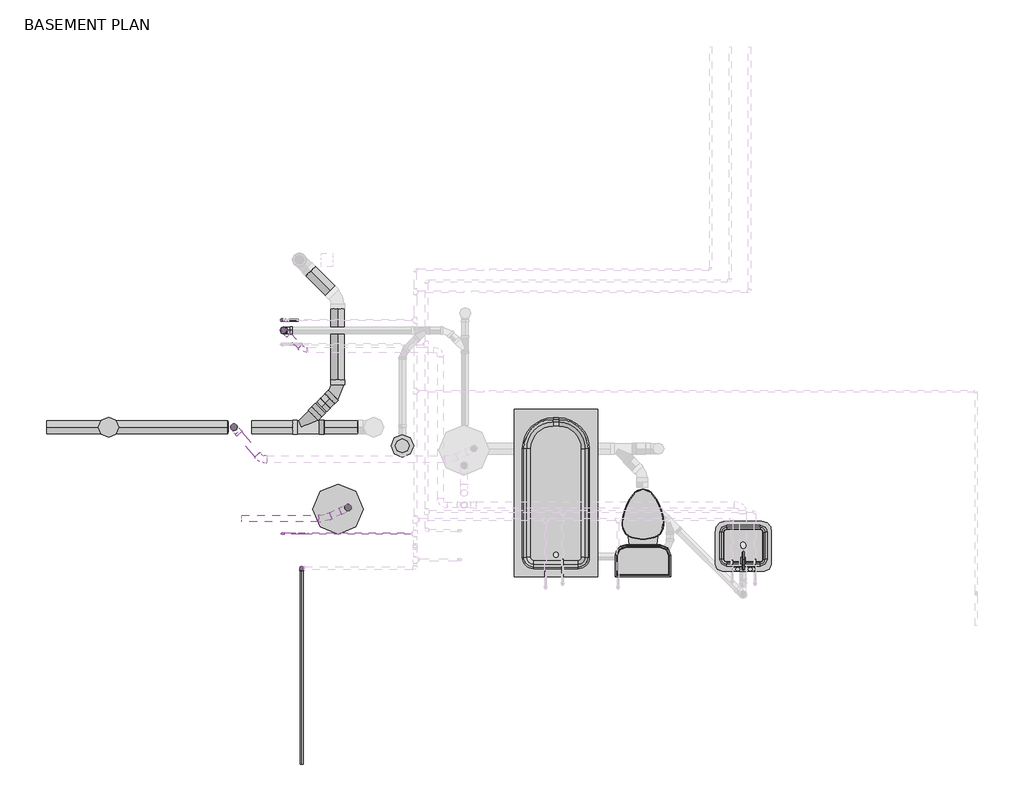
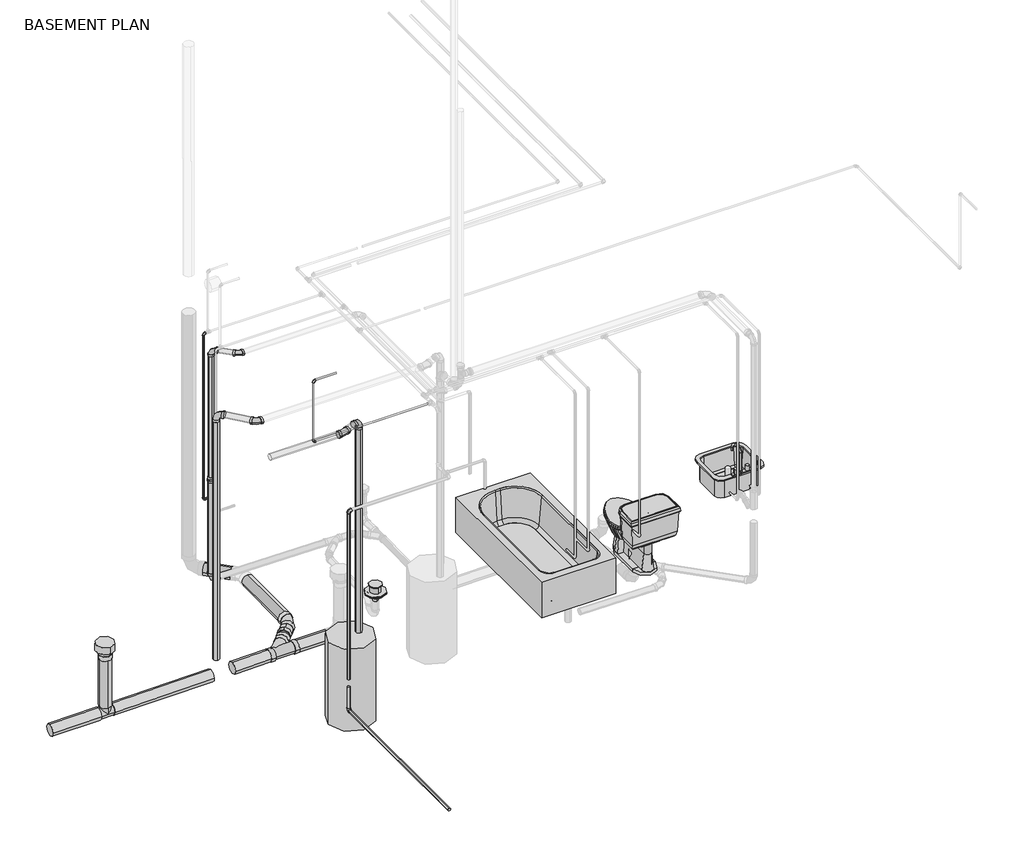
# One storey, part 1 of 6: 25 pipe segments, 20 pipe fittings, 4 flow terminals, 1 proxy.
"""IFC4 building model written with IfcOpenShell, lengths in millimetres."""

from ifc_helpers import new_model, si_unit, point, frame, frame_2d, origin, place, context, project, spatial, circle_curve, trimmed, segment, composite_curve, outline, extrude, transform, mapped, element, save
from components import elv280hv_71b66f3c, flow_terminal_cb594bdd, flow_terminal_62a433f7, toilet_domestic_3d1_toilet_domestic_3d_f7549cf7, toilet_domestic_3d1_toilet_domestic_3d_183bbd19, tub_rectangular_3d_tub_rectangular_5_8ae3ddee, bend_pvc_sch_40_dwv_standard_b61a2a1c, bend_pvc_sch_40_dwv_standard_6f2b9464, bend_pvc_sch_40_dwv_standard_738aab8b, bend_pvc_sch_40_dwv_standard_1b30ce54, bend_pvc_sch_40_dwv_standard_1eaeee76, bend_pvc_sch_40_dwv_standard_edfad06d, bend_pvc_sch_40_dwv_standard_361001dc, bend_pvc_sch_40_dwv_standard_f86c0bbe, ges_wye_45_deg_reducing_pvc_sch_40_dwv_standard_6ad944a7, pipe_elbow_copper_k_a25a5501, pipe_elbow_copper_k_aad62f2d, pipe_tee_copper_k_82b5b23f, reducer_pvc_sch_40_dwv_standard_b23fa098, reducer_pvc_sch_40_dwv_standard_9e2ad0bf, reducer_pvc_sch_40_dwv_standard_cf0626e5

model = new_model("IFC4")

# Units and contexts
model_context = context("Model", 3, world=origin())
ifc_project = project(units=[si_unit("LENGTHUNIT", "METRE", prefix="MILLI")], contexts=[model_context])

# Site, building, storey
site = spatial("IfcSite", under=ifc_project)
building = spatial("IfcBuilding", under=site)
storey = spatial("IfcBuildingStorey", under=building, Name="BASEMENT PLAN", Elevation=-2743.2)

# Proxy
placement = place(None, origin())
elv280hv_shape = elv280hv_71b66f3c(model_context)
element("IfcBuildingElementProxy", 1, Name="Pump-Sump-Liberty-ELV_Series : ELV280HV", ObjectType="Pump-Sump-Liberty-ELV_Series : ELV280HV", at=placement, inside=storey, context=model_context, shape_type="MappedRepresentation", body=[
    mapped(elv280hv_shape, transform((11910.1209899, 4938.7345292, -3632.2), x_axis=(1.0, 0.0, 0.0), y_axis=(0.0, 1.0, 0.0), z_axis=(0.0, 0.0, 1.0))),
])

# Flow terminals
flow_terminal_shape = flow_terminal_cb594bdd(model_context)
element("IfcFlowTerminal", 2, ObjectType="Floor Drain - Round : 5\" Strainer - 2\" Drain", at=placement, inside=storey, context=model_context, shape_type="MappedRepresentation", body=[
    mapped(flow_terminal_shape, transform((12494.056885, 5448.3128176, -2743.2), x_axis=(-7.342484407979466e-06, -0.999999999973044, 0.0), y_axis=(0.999999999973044, -7.342484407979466e-06, 0.0), z_axis=(0.0, 0.0, 1.0))),
])
flow_terminal_2_shape = flow_terminal_62a433f7(model_context)
element("IfcFlowTerminal", 3, ObjectType="Sink Vanity-Square : 20\" x 18\"", at=placement, inside=storey, context=model_context, shape_type="MappedRepresentation", body=[
    mapped(flow_terminal_2_shape, transform((15613.0155818, 4487.7944318, -2743.2), x_axis=(-1.0, 0.0, 0.0), y_axis=(0.0, -1.0, 0.0), z_axis=(0.0, 0.0, 1.0))),
])
toilet_domestic_3d1_toilet_domestic_3d_shape = toilet_domestic_3d1_toilet_domestic_3d_f7549cf7(model_context)
toilet_domestic_3d1_toilet_domestic_3d_2_shape = toilet_domestic_3d1_toilet_domestic_3d_183bbd19(model_context)
element("IfcFlowTerminal", 4, ObjectType="Toilet-Domestic-3D1 : Toilet-Domestic-3D", at=placement, inside=storey, context=model_context, shape_type="MappedRepresentation", body=[
    mapped(toilet_domestic_3d1_toilet_domestic_3d_shape, transform((14683.8939344, 4751.345058, -2743.2), x_axis=(-1.0, 0.0, 0.0), y_axis=(0.0, -1.0, 0.0), z_axis=(0.0, 0.0, 1.0))),
    mapped(toilet_domestic_3d1_toilet_domestic_3d_2_shape, transform((14683.8939344, 4751.345058, -2743.2), x_axis=(-1.0, 0.0, 0.0), y_axis=(0.0, -1.0, 0.0), z_axis=(0.0, 0.0, 1.0))),
])
tub_rectangular_3d_tub_rectangular_5_shape = tub_rectangular_3d_tub_rectangular_5_8ae3ddee(model_context)
element("IfcFlowTerminal", 5, ObjectType="Tub-Rectangular-3D : Tub-Rectangular- 5'", at=placement, inside=storey, context=model_context, shape_type="MappedRepresentation", body=[
    mapped(tub_rectangular_3d_tub_rectangular_5_shape, transform((13510.4504798, 5367.2519993, -2743.2), x_axis=(0.0, 1.0, 0.0), y_axis=(-1.0, 0.0, 0.0), z_axis=(0.0, 0.0, 1.0))),
])

# Pipe fittings
bend_pvc_sch_40_dwv_standard_shape = bend_pvc_sch_40_dwv_standard_b61a2a1c(model_context)
element("IfcPipeFitting", 6, ObjectType="Bend - PVC - Sch 40 - DWV : Standard", at=placement, inside=storey, context=model_context, shape_type="MappedRepresentation", body=[
    mapped(bend_pvc_sch_40_dwv_standard_shape, transform((11905.1846629, 5950.7802, -3263.0171956), x_axis=(0.7070684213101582, 0.7070684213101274, 0.010416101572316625), y_axis=(-0.707139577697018, 0.7070445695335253, 0.006449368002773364), z_axis=(-0.0028045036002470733, -0.011925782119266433, 0.9999249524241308))),
])
bend_pvc_sch_40_dwv_standard_2_shape = bend_pvc_sch_40_dwv_standard_6f2b9464(model_context)
element("IfcPipeFitting", 7, ObjectType="Bend - PVC - Sch 40 - DWV : Standard", at=placement, inside=storey, context=model_context, shape_type="MappedRepresentation", body=[
    mapped(bend_pvc_sch_40_dwv_standard_2_shape, transform((11414.906796, 6499.8094775, -2951.1776877), x_axis=(-0.9999457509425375, 0.0, 0.010416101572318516), y_axis=(0.010416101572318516, 0.0, 0.9999457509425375), z_axis=(0.0, 1.0, 0.0))),
])
bend_pvc_sch_40_dwv_standard_3_shape = bend_pvc_sch_40_dwv_standard_738aab8b(model_context)
element("IfcPipeFitting", 8, ObjectType="Bend - PVC - Sch 40 - DWV : Standard", at=placement, inside=storey, context=model_context, shape_type="MappedRepresentation", body=[
    mapped(bend_pvc_sch_40_dwv_standard_3_shape, transform((11414.9007772, 6499.8056248, -457.2), x_axis=(0.0, 0.0, 1.0), y_axis=(0.7071067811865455, -0.7071067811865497, 0.0), z_axis=(0.7071067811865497, 0.7071067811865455, 0.0))),
])
bend_pvc_sch_40_dwv_standard_4_shape = bend_pvc_sch_40_dwv_standard_1b30ce54(model_context)
element("IfcPipeFitting", 9, ObjectType="Bend - PVC - Sch 40 - DWV : Standard", at=placement, inside=storey, context=model_context, shape_type="MappedRepresentation", body=[
    mapped(bend_pvc_sch_40_dwv_standard_4_shape, transform((11594.5014125, 6320.2049895, -457.2), x_axis=(0.7071067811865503, -0.7071067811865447, 0.0), y_axis=(0.7071067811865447, 0.7071067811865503, 0.0), z_axis=(0.0, 0.0, 1.0))),
])
bend_pvc_sch_40_dwv_standard_5_shape = bend_pvc_sch_40_dwv_standard_1eaeee76(model_context)
element("IfcPipeFitting", 10, ObjectType="Bend - PVC - Sch 40 - DWV : Standard", at=placement, inside=storey, context=model_context, shape_type="MappedRepresentation", body=[
    mapped(bend_pvc_sch_40_dwv_standard_5_shape, transform((10960.527602, 5618.9056862, -457.2), x_axis=(0.0, 0.0, 1.0), y_axis=(0.6427876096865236, -0.7660444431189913, 0.0), z_axis=(0.7660444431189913, 0.6427876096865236, 0.0))),
])
bend_pvc_sch_40_dwv_standard_6_shape = bend_pvc_sch_40_dwv_standard_edfad06d(model_context)
element("IfcPipeFitting", 11, ObjectType="Bend - PVC - Sch 40 - DWV : Standard", at=placement, inside=storey, context=model_context, shape_type="MappedRepresentation", body=[
    mapped(bend_pvc_sch_40_dwv_standard_6_shape, transform((11789.1459642, 4788.8273624, -457.1859151), x_axis=(0.9999999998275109, 0.0, 1.8573592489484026e-05), y_axis=(7.398081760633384e-10, 0.9999999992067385, -3.983118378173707e-05), z_axis=(-1.8573592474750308e-05, 3.9831183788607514e-05, 0.9999999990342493))),
])
bend_pvc_sch_40_dwv_standard_7_shape = bend_pvc_sch_40_dwv_standard_361001dc(model_context)
element("IfcPipeFitting", 12, ObjectType="Bend - PVC - Sch 40 - DWV : Standard", at=placement, inside=storey, context=model_context, shape_type="MappedRepresentation", body=[
    mapped(bend_pvc_sch_40_dwv_standard_7_shape, transform((11205.3156217, 5327.1786843, -457.2), x_axis=(0.6427876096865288, -0.7660444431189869, 0.0), y_axis=(0.7660444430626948, 0.6427876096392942, 1.2123051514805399e-05), z_axis=(-9.286796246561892e-06, -7.792547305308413e-06, 0.9999999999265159))),
])
bend_pvc_sch_40_dwv_standard_8_shape = bend_pvc_sch_40_dwv_standard_f86c0bbe(model_context)
element("IfcPipeFitting", 13, ObjectType="Bend - PVC - Sch 40 - DWV : Standard", at=placement, inside=storey, context=model_context, shape_type="MappedRepresentation", body=[
    mapped(bend_pvc_sch_40_dwv_standard_8_shape, transform((11999.0028793, 4886.685283, -457.1840886), x_axis=(0.9063077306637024, 0.42261838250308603, 1.0473069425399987e-05), y_axis=(9.600624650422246e-06, 4.192787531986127e-06, -0.9999999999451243), z_axis=(-0.4226183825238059, 0.9063077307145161, -2.5744470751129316e-07))),
])
ges_wye_45_deg_reducing_pvc_sch_40_dwv_standard_shape = ges_wye_45_deg_reducing_pvc_sch_40_dwv_standard_6ad944a7(model_context)
element("IfcPipeFitting", 14, ObjectType="GES Wye 45 Deg Reducing - PVC - Sch 40 - DWV : Standard", at=placement, inside=storey, context=model_context, shape_type="MappedRepresentation", body=[
    mapped(ges_wye_45_deg_reducing_pvc_sch_40_dwv_standard_shape, transform((11573.3101491, 5618.9056862, -3273.3124226), x_axis=(0.9999457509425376, 0.0, 0.010416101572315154), y_axis=(4.4939753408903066e-05, -0.9999906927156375, -0.004314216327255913), z_axis=(0.010416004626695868, 0.004314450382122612, -0.9999364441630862))),
])
pipe_elbow_copper_k_shape = pipe_elbow_copper_k_a25a5501(model_context)
element("IfcPipeFitting", 15, ObjectType="Pipe Elbow : Copper- K", at=placement, inside=storey, context=model_context, shape_type="MappedRepresentation", body=[
    mapped(pipe_elbow_copper_k_shape, transform((11578.2429462, 4334.9724615, -3112.4765802), x_axis=(0.0, 1.0, 0.0), y_axis=(0.0, 0.0, 1.0), z_axis=(1.0, 0.0, 0.0))),
])
element("IfcPipeFitting", 16, ObjectType="Pipe Elbow : Copper- K", at=placement, inside=storey, context=model_context, shape_type="MappedRepresentation", body=[
    mapped(pipe_elbow_copper_k_shape, transform((11578.2429462, 4334.9724615, -951.8313413), x_axis=(0.0, 0.0, 1.0), y_axis=(1.0, 0.0, 0.0), z_axis=(0.0, 1.0, 0.0))),
])
pipe_elbow_copper_k_2_shape = pipe_elbow_copper_k_aad62f2d(model_context)
element("IfcPipeFitting", 17, ObjectType="Pipe Elbow : Copper- K", at=placement, inside=storey, context=model_context, shape_type="MappedRepresentation", body=[
    mapped(pipe_elbow_copper_k_2_shape, transform((11392.7254798, 6593.4490306, -334.4523585), x_axis=(-1.0, 0.0, 0.0), y_axis=(0.0, 0.0, -1.0), z_axis=(0.0, -1.0, 0.0))),
])
element("IfcPipeFitting", 18, ObjectType="Pipe Elbow : Copper- K", at=placement, inside=storey, context=model_context, shape_type="MappedRepresentation", body=[
    mapped(pipe_elbow_copper_k_2_shape, transform((11392.7254798, 6593.4490306, -2133.6), x_axis=(0.0, 0.0, -1.0), y_axis=(1.0, 0.0, 0.0), z_axis=(0.0, -1.0, 0.0))),
])
element("IfcPipeFitting", 19, ObjectType="Pipe Elbow : Copper- K", at=placement, inside=storey, context=model_context, shape_type="MappedRepresentation", body=[
    mapped(pipe_elbow_copper_k_2_shape, transform((11399.1386676, 4650.3490306, 330.2), x_axis=(-1.0, 0.0, 0.0), y_axis=(0.0, 0.0, -1.0), z_axis=(0.0, -1.0, 0.0))),
])
element("IfcPipeFitting", 20, ObjectType="Pipe Elbow : Copper- K", at=placement, inside=storey, context=model_context, shape_type="MappedRepresentation", body=[
    mapped(pipe_elbow_copper_k_2_shape, transform((11399.1386676, 4650.3490306, -334.4523585), x_axis=(-1.0, 0.0, 0.0), y_axis=(0.0, 0.0, 1.0), z_axis=(0.0, 1.0, 0.0))),
])
pipe_tee_copper_k_shape = pipe_tee_copper_k_82b5b23f(model_context)
element("IfcPipeFitting", 21, ObjectType="Pipe Tee : Copper- K", at=placement, inside=storey, context=model_context, shape_type="MappedRepresentation", body=[
    mapped(pipe_tee_copper_k_shape, transform((9819.1572964, 5618.9056862, -3291.5848482), x_axis=(0.9999457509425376, 0.0, 0.010416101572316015), y_axis=(0.010416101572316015, 0.0, -0.9999457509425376), z_axis=(0.0, 1.0, 0.0))),
])
reducer_pvc_sch_40_dwv_standard_shape = reducer_pvc_sch_40_dwv_standard_b23fa098(model_context)
element("IfcPipeFitting", 22, ObjectType="Reducer - PVC - Sch 40 - DWV : Standard", at=placement, inside=storey, context=model_context, shape_type="MappedRepresentation", body=[
    mapped(reducer_pvc_sch_40_dwv_standard_shape, transform((11414.9052644, 6499.8101119, -1884.5247303), x_axis=(0.0, 0.0, 1.0), y_axis=(-1.0, 0.0, 0.0), z_axis=(0.0, -1.0, 0.0))),
])
element("IfcPipeFitting", 23, ObjectType="Reducer - PVC - Sch 40 - DWV : Standard", at=placement, inside=storey, context=model_context, shape_type="MappedRepresentation", body=[
    mapped(reducer_pvc_sch_40_dwv_standard_shape, transform((11999.0033514, 4886.6847996, -2944.2212886), x_axis=(1.9372387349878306e-07, -1.9847236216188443e-07, -0.9999999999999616), y_axis=(0.9999999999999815, 0.0, 1.937238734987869e-07), z_axis=(0.0, -0.9999999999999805, 1.9847236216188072e-07))),
])
reducer_pvc_sch_40_dwv_standard_2_shape = reducer_pvc_sch_40_dwv_standard_9e2ad0bf(model_context)
element("IfcPipeFitting", 24, ObjectType="Reducer - PVC - Sch 40 - DWV : Standard", at=placement, inside=storey, context=model_context, shape_type="MappedRepresentation", body=[
    mapped(reducer_pvc_sch_40_dwv_standard_2_shape, transform((9819.1572964, 5618.9056862, -2707.3848482), x_axis=(0.0, 0.0, 1.0), y_axis=(-1.0, 0.0, 0.0), z_axis=(0.0, -1.0, 0.0))),
])
reducer_pvc_sch_40_dwv_standard_3_shape = reducer_pvc_sch_40_dwv_standard_cf0626e5(model_context)
element("IfcPipeFitting", 25, ObjectType="Reducer - PVC - Sch 40 - DWV : Standard", at=placement, inside=storey, context=model_context, shape_type="MappedRepresentation", body=[
    mapped(reducer_pvc_sch_40_dwv_standard_3_shape, transform((11714.4468615, 5760.0423985, -3271.2332825), x_axis=(0.7070684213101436, 0.7070684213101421, 0.010416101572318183), y_axis=(-0.7070684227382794, 0.7071319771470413, -0.004314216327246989), z_axis=(-0.010416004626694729, -0.004314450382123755, 0.9999364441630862))),
])

# Pipe segments
element("IfcPipeSegment", 26, ObjectType="Cast Iron - SAN/STORM", at=placement, inside=storey, context=model_context, shape_type="SweptSolid", body=[
    extrude(outline(composite_curve([segment(trimmed(circle_curve(frame_2d((0.0, -61.11875)), 61.11875), [point((0.0, 0.0))], [point((61.11875, -61.11875))], False, "CARTESIAN"), True, "CONTINUOUS"), segment(trimmed(circle_curve(frame_2d((0.0, -61.11875)), 61.11875), [point((61.11875, -61.11875))], [point((0.0, -122.2375))], False, "CARTESIAN"), True, "CONTINUOUS"), segment(trimmed(circle_curve(frame_2d((0.0, -61.11875)), 61.11875), [point((0.0, -122.2375))], [point((-61.11875, -61.11875))], False, "CARTESIAN"), True, "CONTINUOUS"), segment(trimmed(circle_curve(frame_2d((0.0, -61.11875)), 61.11875), [point((-61.11875, -61.11875))], [point((0.0, 0.0))], False, "CARTESIAN"), True, "CONTINUOUS")], self_intersect=False)), frame((9255.5675578, 5680.0244362, -3297.4555746), z_axis=(0.9999457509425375, 0.0, 0.010416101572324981), x_axis=(0.010416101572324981, 0.0, -0.9999457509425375)), (0.0, 0.0, 1.0), 495.3578145),
])
element("IfcPipeSegment", 27, ObjectType="Cast Iron - SAN/STORM", at=placement, inside=storey, context=model_context, shape_type="SweptSolid", body=[
    extrude(outline(composite_curve([segment(trimmed(circle_curve(frame_2d((0.0, 61.11875)), 61.11875), [point((61.1154348, 60.4821655))], [point((-0.6365845, 0.0033153))], False, "CARTESIAN"), True, "CONTINUOUS"), segment(trimmed(circle_curve(frame_2d((0.0, 61.11875)), 61.11875), [point((-0.6365845, 0.0033153))], [point((-61.1154347, 61.7553346))], False, "CARTESIAN"), True, "CONTINUOUS"), segment(trimmed(circle_curve(frame_2d((0.0, 61.11875)), 61.11875), [point((-61.1154347, 61.7553346))], [point((0.6365846, 122.2341847))], False, "CARTESIAN"), True, "CONTINUOUS"), segment(trimmed(circle_curve(frame_2d((0.0, 61.11875)), 61.11875), [point((0.6365846, 122.2341847))], [point((61.1154348, 60.4821655))], False, "CARTESIAN"), True, "CONTINUOUS")], self_intersect=False)), frame((11792.3430209, 5837.0382915, -3203.5673907), z_axis=(0.7070684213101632, 0.7070684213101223, 0.01041610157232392), x_axis=(0.7071451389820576, -0.7069917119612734, -0.010414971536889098)), (0.0, 0.0, 1.0), 59.5656382),
])
element("IfcPipeSegment", 28, ObjectType="Cast Iron - SAN/STORM", at=placement, inside=storey, context=model_context, shape_type="SweptSolid", body=[
    extrude(outline(composite_curve([segment(trimmed(circle_curve(frame_2d((0.0, -61.11875)), 61.11875), [point((0.0, 0.0))], [point((61.1187499, -61.11875))], False, "CARTESIAN"), True, "CONTINUOUS"), segment(trimmed(circle_curve(frame_2d((0.0, -61.11875)), 61.11875), [point((61.1187499, -61.11875))], [point((0.0, -122.2375))], False, "CARTESIAN"), True, "CONTINUOUS"), segment(trimmed(circle_curve(frame_2d((0.0, -61.11875)), 61.11875), [point((0.0, -122.2375))], [point((-61.11875, -61.11875))], False, "CARTESIAN"), True, "CONTINUOUS"), segment(trimmed(circle_curve(frame_2d((0.0, -61.11875)), 61.11875), [point((-61.11875, -61.11875))], [point((0.0, 0.0))], False, "CARTESIAN"), True, "CONTINUOUS")], self_intersect=False)), frame((11783.3646908, 5680.0244362, -3271.1243545), z_axis=(0.9999457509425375, 0.0, 0.010416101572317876), x_axis=(0.010416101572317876, 0.0, -0.9999457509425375)), (0.0, 0.0, 1.0), 306.589473),
])
element("IfcPipeSegment", 29, ObjectType="Cast Iron - SAN/STORM", at=placement, inside=storey, context=model_context, shape_type="SweptSolid", body=[
    extrude(outline(composite_curve([segment(trimmed(circle_curve(frame_2d((-1e-07, -61.11875)), 61.11875), [point((-61.1170922, -61.5689199))], [point((-0.4501699, -0.0016579))], False, "CARTESIAN"), True, "CONTINUOUS"), segment(trimmed(circle_curve(frame_2d((-1e-07, -61.11875)), 61.11875), [point((-0.4501699, -0.0016579))], [point((61.117092, -60.6685801))], False, "CARTESIAN"), True, "CONTINUOUS"), segment(trimmed(circle_curve(frame_2d((-1e-07, -61.11875)), 61.11875), [point((61.117092, -60.6685801))], [point((0.4501698, -122.2358421))], False, "CARTESIAN"), True, "CONTINUOUS"), segment(trimmed(circle_curve(frame_2d((-1e-07, -61.11875)), 61.11875), [point((0.4501698, -122.2358421))], [point((-61.1170922, -61.5689199))], False, "CARTESIAN"), True, "CONTINUOUS")], self_intersect=False)), frame((11836.6871703, 6862.2868881, -3313.6753395), z_axis=(-0.7071067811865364, 0.707068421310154, 0.007365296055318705), x_axis=(0.7071067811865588, 0.7070684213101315, 0.007365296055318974)), (0.0, 0.0, 1.0), 252.8510904),
])
element("IfcPipeSegment", 30, ObjectType="Cast Iron - SAN/STORM", at=placement, inside=storey, context=model_context, shape_type="SweptSolid", body=[
    extrude(outline(composite_curve([segment(trimmed(circle_curve(frame_2d((0.0, -61.11875)), 61.11875), [point((-61.11875, -61.11875))], [point((0.0, 0.0))], False, "CARTESIAN"), True, "CONTINUOUS"), segment(trimmed(circle_curve(frame_2d((0.0, -61.11875)), 61.11875), [point((0.0, 0.0))], [point((61.11875, -61.11875))], False, "CARTESIAN"), True, "CONTINUOUS"), segment(trimmed(circle_curve(frame_2d((0.0, -61.11875)), 61.11875), [point((61.11875, -61.11875))], [point((0.0, -122.2375))], False, "CARTESIAN"), True, "CONTINUOUS"), segment(trimmed(circle_curve(frame_2d((0.0, -61.11875)), 61.11875), [point((0.0, -122.2375))], [point((-61.11875, -61.11875))], False, "CARTESIAN"), True, "CONTINUOUS")], self_intersect=False)), frame((11905.1846629, 6051.5271785, -3322.9387157), z_axis=(0.0, 0.9999288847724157, 0.0119258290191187), x_axis=(1.0, 0.0, 0.0)), (0.0, 0.0, 1.0), 645.5861612),
])
element("IfcPipeSegment", 31, ObjectType="Cast Iron - SAN/STORM", at=placement, inside=storey, context=model_context, shape_type="SweptSolid", body=[
    extrude(outline(composite_curve([segment(trimmed(circle_curve(frame_2d((0.0, 30.1625)), 30.1625), [point((-30.1625, 30.1625))], [point((0.0, 60.325))], False, "CARTESIAN"), True, "CONTINUOUS"), segment(trimmed(circle_curve(frame_2d((0.0, 30.1625)), 30.1625), [point((0.0, 60.325))], [point((30.1625, 30.1625))], False, "CARTESIAN"), True, "CONTINUOUS"), segment(trimmed(circle_curve(frame_2d((0.0, 30.1625)), 30.1625), [point((30.1625, 30.1625))], [point((0.0, 0.0))], False, "CARTESIAN"), True, "CONTINUOUS"), segment(trimmed(circle_curve(frame_2d((0.0, 30.1625)), 30.1625), [point((0.0, 0.0))], [point((-30.1625, 30.1625))], False, "CARTESIAN"), True, "CONTINUOUS")], self_intersect=False)), frame((11414.906796, 6469.6469775, -2873.3774683), z_axis=(-1.5489599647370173e-06, 6.416002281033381e-07, 0.9999999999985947), x_axis=(0.9999999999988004, 0.0, 1.5489599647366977e-06)), (0.0, 0.0, 1.0), 988.8527574),
])
element("IfcPipeSegment", 32, ObjectType="Cast Iron - SAN/STORM", at=placement, inside=storey, context=model_context, shape_type="SweptSolid", body=[
    extrude(outline(composite_curve([segment(trimmed(circle_curve(frame_2d((9819.1572964, 5618.9056862)), 61.11875), [point((9758.0385464, 5618.9056862))], [point((9819.1572964, 5680.0244362))], False, "CARTESIAN"), True, "CONTINUOUS"), segment(trimmed(circle_curve(frame_2d((9819.1572964, 5618.9056862)), 61.11875), [point((9819.1572964, 5680.0244362))], [point((9880.2760464, 5618.9056862))], False, "CARTESIAN"), True, "CONTINUOUS"), segment(trimmed(circle_curve(frame_2d((9819.1572964, 5618.9056862)), 61.11875), [point((9880.2760464, 5618.9056862))], [point((9819.1572964, 5557.7869362))], False, "CARTESIAN"), True, "CONTINUOUS"), segment(trimmed(circle_curve(frame_2d((9819.1572964, 5618.9056862)), 61.11875), [point((9819.1572964, 5557.7869362))], [point((9758.0385464, 5618.9056862))], False, "CARTESIAN"), True, "CONTINUOUS")], self_intersect=False)), frame((0.0, 0.0, -3223.3223482), z_axis=(0.0, 0.0, 1.0), x_axis=(1.0, 0.0, 0.0)), (0.0, 0.0, 1.0), 515.9375),
])
element("IfcPipeSegment", 33, ObjectType="Cast Iron - SAN/STORM", at=placement, inside=storey, context=model_context, shape_type="SweptSolid", body=[
    extrude(outline(composite_curve([segment(trimmed(circle_curve(frame_2d((0.0, -61.11875)), 61.11875), [point((0.0, 0.0))], [point((61.11875, -61.11875))], False, "CARTESIAN"), True, "CONTINUOUS"), segment(trimmed(circle_curve(frame_2d((0.0, -61.11875)), 61.11875), [point((61.11875, -61.11875))], [point((0.0, -122.2375))], False, "CARTESIAN"), True, "CONTINUOUS"), segment(trimmed(circle_curve(frame_2d((0.0, -61.11875)), 61.11875), [point((0.0, -122.2375))], [point((-61.1187499, -61.11875))], False, "CARTESIAN"), True, "CONTINUOUS"), segment(trimmed(circle_curve(frame_2d((0.0, -61.11875)), 61.11875), [point((-61.1187499, -61.11875))], [point((0.0, 0.0))], False, "CARTESIAN"), True, "CONTINUOUS")], self_intersect=False)), frame((9887.4160932, 5680.0244362, -3290.873819), z_axis=(0.9999457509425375, 0.0, 0.010416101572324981), x_axis=(0.010416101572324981, 0.0, -0.9999457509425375)), (0.0, 0.0, 1.0), 1019.1947272),
])
element("IfcPipeSegment", 34, ObjectType="Cast Iron - SAN/STORM", at=placement, inside=storey, context=model_context, shape_type="SweptSolid", body=[
    extrude(outline(composite_curve([segment(trimmed(circle_curve(frame_2d((0.0, -30.1625)), 30.1625), [point((-30.1625001, -30.1625))], [point((0.0, 0.0))], False, "CARTESIAN"), True, "CONTINUOUS"), segment(trimmed(circle_curve(frame_2d((0.0, -30.1625)), 30.1625), [point((0.0, 0.0))], [point((30.1624999, -30.1625))], False, "CARTESIAN"), True, "CONTINUOUS"), segment(trimmed(circle_curve(frame_2d((0.0, -30.1625)), 30.1625), [point((30.1624999, -30.1625))], [point((0.0, -60.325))], False, "CARTESIAN"), True, "CONTINUOUS"), segment(trimmed(circle_curve(frame_2d((0.0, -30.1625)), 30.1625), [point((0.0, -60.325))], [point((-30.1625001, -30.1625))], False, "CARTESIAN"), True, "CONTINUOUS")], self_intersect=False)), frame((11171.6334224, 5367.3195664, -487.3625), z_axis=(-0.6427876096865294, 0.7660444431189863, 0.0), x_axis=(0.7660444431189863, 0.6427876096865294, 0.0)), (0.0, 0.0, 1.0), 250.6221548),
])
element("IfcPipeSegment", 35, ObjectType="Cast Iron - SAN/STORM", at=placement, inside=storey, context=model_context, shape_type="SweptSolid", body=[
    extrude(outline(composite_curve([segment(trimmed(circle_curve(frame_2d((10960.527602, 5618.9056862)), 30.1625), [point((10930.365102, 5618.9056862))], [point((10960.527602, 5649.0681862))], False, "CARTESIAN"), True, "CONTINUOUS"), segment(trimmed(circle_curve(frame_2d((10960.527602, 5618.9056862)), 30.1625), [point((10960.527602, 5649.0681862))], [point((10990.690102, 5618.9056862))], False, "CARTESIAN"), True, "CONTINUOUS"), segment(trimmed(circle_curve(frame_2d((10960.527602, 5618.9056862)), 30.1625), [point((10990.690102, 5618.9056862))], [point((10960.527602, 5588.7431862))], False, "CARTESIAN"), True, "CONTINUOUS"), segment(trimmed(circle_curve(frame_2d((10960.527602, 5618.9056862)), 30.1625), [point((10960.527602, 5588.7431862))], [point((10930.365102, 5618.9056862))], False, "CARTESIAN"), True, "CONTINUOUS")], self_intersect=False)), frame((0.0, 0.0, -3119.3453741), z_axis=(0.0, 0.0, 1.0), x_axis=(1.0, 0.0, 0.0)), (0.0, 0.0, 1.0), 2584.3451741),
])
element("IfcPipeSegment", 36, ObjectType="Cast Iron - SAN/STORM", at=placement, inside=storey, context=model_context, shape_type="SweptSolid", body=[
    extrude(outline(composite_curve([segment(trimmed(circle_curve(frame_2d((0.0, -61.11875)), 61.11875), [point((0.0, 0.0))], [point((61.1187499, -61.11875))], False, "CARTESIAN"), True, "CONTINUOUS"), segment(trimmed(circle_curve(frame_2d((0.0, -61.11875)), 61.11875), [point((61.1187499, -61.11875))], [point((0.0, -122.2375))], False, "CARTESIAN"), True, "CONTINUOUS"), segment(trimmed(circle_curve(frame_2d((0.0, -61.11875)), 61.11875), [point((0.0, -122.2375))], [point((-61.11875, -61.11875))], False, "CARTESIAN"), True, "CONTINUOUS"), segment(trimmed(circle_curve(frame_2d((0.0, -61.11875)), 61.11875), [point((-61.11875, -61.11875))], [point((0.0, 0.0))], False, "CARTESIAN"), True, "CONTINUOUS")], self_intersect=False)), frame((11124.0439309, 5680.0244362, -3277.9922791), z_axis=(0.9999457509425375, 0.0, 0.010416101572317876), x_axis=(0.010416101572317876, 0.0, -0.9999457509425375)), (0.0, 0.0, 1.0), 370.5783731),
])
element("IfcPipeSegment", 37, ObjectType="Cast Iron - SAN/STORM", at=placement, inside=storey, context=model_context, shape_type="SweptSolid", body=[
    extrude(outline(composite_curve([segment(trimmed(circle_curve(frame_2d((0.0, -30.1625)), 30.1625), [point((-30.1624999, -30.1625))], [point((0.0, 0.0))], False, "CARTESIAN"), True, "CONTINUOUS"), segment(trimmed(circle_curve(frame_2d((0.0, -30.1625)), 30.1625), [point((0.0, 0.0))], [point((30.1625, -30.1625))], False, "CARTESIAN"), True, "CONTINUOUS"), segment(trimmed(circle_curve(frame_2d((0.0, -30.1625)), 30.1625), [point((30.1625, -30.1625))], [point((0.0, -60.325))], False, "CARTESIAN"), True, "CONTINUOUS"), segment(trimmed(circle_curve(frame_2d((0.0, -30.1625)), 30.1625), [point((0.0, -60.325))], [point((-30.1624999, -30.1625))], False, "CARTESIAN"), True, "CONTINUOUS")], self_intersect=False)), frame((11840.941451, 4812.9800029, -487.3474034), z_axis=(0.9063077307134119, 0.42261838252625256, 0.0), x_axis=(0.42261838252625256, -0.9063077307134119, 0.0)), (0.0, 0.0, 1.0), 96.6013006),
])
element("IfcPipeSegment", 38, ObjectType="Cast Iron - SAN/STORM", at=placement, inside=storey, context=model_context, shape_type="SweptSolid", body=[
    extrude(outline(composite_curve([segment(trimmed(circle_curve(frame_2d((0.0, -30.1625)), 30.1625), [point((-30.1625, -30.1625))], [point((0.0, 0.0))], False, "CARTESIAN"), True, "CONTINUOUS"), segment(trimmed(circle_curve(frame_2d((0.0, -30.1625)), 30.1625), [point((0.0, 0.0))], [point((30.1625, -30.1625))], False, "CARTESIAN"), True, "CONTINUOUS"), segment(trimmed(circle_curve(frame_2d((0.0, -30.1625)), 30.1625), [point((30.1625, -30.1625))], [point((0.0, -60.325))], False, "CARTESIAN"), True, "CONTINUOUS"), segment(trimmed(circle_curve(frame_2d((0.0, -30.1625)), 30.1625), [point((0.0, -60.325))], [point((-30.1625, -30.1625))], False, "CARTESIAN"), True, "CONTINUOUS")], self_intersect=False)), frame((11999.0033514, 4856.5222996, -2944.2212828), z_axis=(-1.8970445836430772e-07, 1.943544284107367e-07, 0.9999999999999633), x_axis=(-0.999999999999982, 0.0, -1.8970445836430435e-07)), (0.0, 0.0, 1.0), 2409.2370001),
])
element("IfcPipeSegment", 39, ObjectType="Cast Iron - SAN/STORM", at=placement, inside=storey, context=model_context, shape_type="SweptSolid", body=[
    extrude(outline(composite_curve([segment(trimmed(circle_curve(frame_2d((0.0, -30.1625)), 30.1625), [point((-30.1625, -30.1625))], [point((0.0, 0.0))], False, "CARTESIAN"), True, "CONTINUOUS"), segment(trimmed(circle_curve(frame_2d((0.0, -30.1625)), 30.1625), [point((0.0, 0.0))], [point((30.1625, -30.1625))], False, "CARTESIAN"), True, "CONTINUOUS"), segment(trimmed(circle_curve(frame_2d((0.0, -30.1625)), 30.1625), [point((30.1625, -30.1625))], [point((0.0, -60.325))], False, "CARTESIAN"), True, "CONTINUOUS"), segment(trimmed(circle_curve(frame_2d((0.0, -30.1625)), 30.1625), [point((0.0, -60.325))], [point((-30.1625, -30.1625))], False, "CARTESIAN"), True, "CONTINUOUS")], self_intersect=False)), frame((11030.8169813, 4788.8273624, -487.3625), z_axis=(0.9999999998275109, 0.0, 1.8573592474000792e-05), x_axis=(0.0, -1.0, 0.0)), (0.0, 0.0, 1.0), 701.1795433),
])
element("IfcPipeSegment", 40, ObjectType="Copper", at=placement, inside=storey, context=model_context, shape_type="SweptSolid", body=[
    extrude(outline(composite_curve([segment(trimmed(circle_curve(frame_2d((-3112.4765802, 11578.2429462)), 14.2875), [point((-3112.4765802, 11592.5304462))], [point((-3098.1890802, 11578.2429462))], False, "CARTESIAN"), True, "CONTINUOUS"), segment(trimmed(circle_curve(frame_2d((-3112.4765802, 11578.2429462)), 14.2875), [point((-3098.1890802, 11578.2429462))], [point((-3112.4765802, 11563.9554462))], False, "CARTESIAN"), True, "CONTINUOUS"), segment(trimmed(circle_curve(frame_2d((-3112.4765802, 11578.2429462)), 14.2875), [point((-3112.4765802, 11563.9554462))], [point((-3126.7640802, 11578.2429462))], False, "CARTESIAN"), True, "CONTINUOUS"), segment(trimmed(circle_curve(frame_2d((-3112.4765802, 11578.2429462)), 14.2875), [point((-3126.7640802, 11578.2429462))], [point((-3112.4765802, 11592.5304462))], False, "CARTESIAN"), True, "CONTINUOUS")], self_intersect=False)), frame((0.0, 2550.6224615, 0.0), z_axis=(0.0, 1.0, 0.0), x_axis=(0.0, 0.0, 1.0)), (0.0, 0.0, 1.0), 1760.5375),
])
element("IfcPipeSegment", 41, ObjectType="Copper", at=placement, inside=storey, context=model_context, shape_type="SweptSolid", body=[
    extrude(outline(composite_curve([segment(trimmed(circle_curve(frame_2d((11578.2429462, 4334.9724615)), 14.2875), [point((11563.9554462, 4334.9724615))], [point((11578.2429462, 4349.2599615))], False, "CARTESIAN"), True, "CONTINUOUS"), segment(trimmed(circle_curve(frame_2d((11578.2429462, 4334.9724615)), 14.2875), [point((11578.2429462, 4349.2599615))], [point((11592.5304462, 4334.9724615))], False, "CARTESIAN"), True, "CONTINUOUS"), segment(trimmed(circle_curve(frame_2d((11578.2429462, 4334.9724615)), 14.2875), [point((11592.5304462, 4334.9724615))], [point((11578.2429462, 4320.6849615))], False, "CARTESIAN"), True, "CONTINUOUS"), segment(trimmed(circle_curve(frame_2d((11578.2429462, 4334.9724615)), 14.2875), [point((11578.2429462, 4320.6849615))], [point((11563.9554462, 4334.9724615))], False, "CARTESIAN"), True, "CONTINUOUS")], self_intersect=False)), frame((0.0, 0.0, -2776.5629), z_axis=(0.0, 0.0, 1.0), x_axis=(1.0, 0.0, 0.0)), (0.0, 0.0, 1.0), 1800.9190587),
])
element("IfcPipeSegment", 42, ObjectType="Copper", at=placement, inside=storey, context=model_context, shape_type="SweptSolid", body=[
    extrude(outline(composite_curve([segment(trimmed(circle_curve(frame_2d((11578.2429462, 4334.9724615)), 14.2875), [point((11563.9554462, 4334.9724615))], [point((11578.2429462, 4349.2599615))], False, "CARTESIAN"), True, "CONTINUOUS"), segment(trimmed(circle_curve(frame_2d((11578.2429462, 4334.9724615)), 14.2875), [point((11578.2429462, 4349.2599615))], [point((11592.5304462, 4334.9724615))], False, "CARTESIAN"), True, "CONTINUOUS"), segment(trimmed(circle_curve(frame_2d((11578.2429462, 4334.9724615)), 14.2875), [point((11592.5304462, 4334.9724615))], [point((11578.2429462, 4320.6849615))], False, "CARTESIAN"), True, "CONTINUOUS"), segment(trimmed(circle_curve(frame_2d((11578.2429462, 4334.9724615)), 14.2875), [point((11578.2429462, 4320.6849615))], [point((11563.9554462, 4334.9724615))], False, "CARTESIAN"), True, "CONTINUOUS")], self_intersect=False)), frame((0.0, 0.0, -3088.6640802), z_axis=(0.0, 0.0, 1.0), x_axis=(1.0, 0.0, 0.0)), (0.0, 0.0, 1.0), 226.4269802),
])
element("IfcPipeSegment", 43, ObjectType="Copper", at=placement, inside=storey, context=model_context, shape_type="SweptSolid", body=[
    extrude(outline(composite_curve([segment(trimmed(circle_curve(frame_2d((6593.4490306, -334.4523585)), 7.9375), [point((6601.3865306, -334.4523585))], [point((6593.4490306, -342.3898585))], False, "CARTESIAN"), True, "CONTINUOUS"), segment(trimmed(circle_curve(frame_2d((6593.4490306, -334.4523585)), 7.9375), [point((6593.4490306, -342.3898585))], [point((6585.5115306, -334.4523585))], False, "CARTESIAN"), True, "CONTINUOUS"), segment(trimmed(circle_curve(frame_2d((6593.4490306, -334.4523585)), 7.9375), [point((6585.5115306, -334.4523585))], [point((6593.4490306, -326.5148585))], False, "CARTESIAN"), True, "CONTINUOUS"), segment(trimmed(circle_curve(frame_2d((6593.4490306, -334.4523585)), 7.9375), [point((6593.4490306, -326.5148585))], [point((6601.3865306, -334.4523585))], False, "CARTESIAN"), True, "CONTINUOUS")], self_intersect=False)), frame((11410.1879798, 0.0, 0.0), z_axis=(1.0, 0.0, 0.0), x_axis=(0.0, 1.0, 0.0)), (0.0, 0.0, 1.0), 3.2381878),
])
element("IfcPipeSegment", 44, ObjectType="Copper", at=placement, inside=storey, context=model_context, shape_type="SweptSolid", body=[
    extrude(outline(composite_curve([segment(trimmed(circle_curve(frame_2d((6593.4490306, -2133.6)), 7.9375), [point((6585.5115306, -2133.6))], [point((6593.4490306, -2125.6625))], False, "CARTESIAN"), True, "CONTINUOUS"), segment(trimmed(circle_curve(frame_2d((6593.4490306, -2133.6)), 7.9375), [point((6593.4490306, -2125.6625))], [point((6601.3865306, -2133.6))], False, "CARTESIAN"), True, "CONTINUOUS"), segment(trimmed(circle_curve(frame_2d((6593.4490306, -2133.6)), 7.9375), [point((6601.3865306, -2133.6))], [point((6593.4490306, -2141.5375))], False, "CARTESIAN"), True, "CONTINUOUS"), segment(trimmed(circle_curve(frame_2d((6593.4490306, -2133.6)), 7.9375), [point((6593.4490306, -2141.5375))], [point((6585.5115306, -2133.6))], False, "CARTESIAN"), True, "CONTINUOUS")], self_intersect=False)), frame((11410.1879798, 0.0, 0.0), z_axis=(1.0, 0.0, 0.0), x_axis=(0.0, 1.0, 0.0)), (0.0, 0.0, 1.0), 134.9375),
])
element("IfcPipeSegment", 45, ObjectType="Copper", at=placement, inside=storey, context=model_context, shape_type="SweptSolid", body=[
    extrude(outline(composite_curve([segment(trimmed(circle_curve(frame_2d((11392.7254798, 6593.4490306)), 7.9375), [point((11400.6629798, 6593.4490306))], [point((11392.7254798, 6585.5115306))], False, "CARTESIAN"), True, "CONTINUOUS"), segment(trimmed(circle_curve(frame_2d((11392.7254798, 6593.4490306)), 7.9375), [point((11392.7254798, 6585.5115306))], [point((11384.7879798, 6593.4490306))], False, "CARTESIAN"), True, "CONTINUOUS"), segment(trimmed(circle_curve(frame_2d((11392.7254798, 6593.4490306)), 7.9375), [point((11384.7879798, 6593.4490306))], [point((11392.7254798, 6601.3865306))], False, "CARTESIAN"), True, "CONTINUOUS"), segment(trimmed(circle_curve(frame_2d((11392.7254798, 6593.4490306)), 7.9375), [point((11392.7254798, 6601.3865306))], [point((11400.6629798, 6593.4490306))], False, "CARTESIAN"), True, "CONTINUOUS")], self_intersect=False)), frame((0.0, 0.0, -2116.1375), z_axis=(0.0, 0.0, 1.0), x_axis=(1.0, 0.0, 0.0)), (0.0, 0.0, 1.0), 1764.2226415),
])
element("IfcPipeSegment", 46, ObjectType="Copper", at=placement, inside=storey, context=model_context, shape_type="SweptSolid", body=[
    extrude(outline(composite_curve([segment(trimmed(circle_curve(frame_2d((11399.1386676, 4650.3490306)), 7.9375), [point((11407.0761676, 4650.3490306))], [point((11399.1386676, 4642.4115306))], False, "CARTESIAN"), True, "CONTINUOUS"), segment(trimmed(circle_curve(frame_2d((11399.1386676, 4650.3490306)), 7.9375), [point((11399.1386676, 4642.4115306))], [point((11391.2011676, 4650.3490306))], False, "CARTESIAN"), True, "CONTINUOUS"), segment(trimmed(circle_curve(frame_2d((11399.1386676, 4650.3490306)), 7.9375), [point((11391.2011676, 4650.3490306))], [point((11399.1386676, 4658.2865306))], False, "CARTESIAN"), True, "CONTINUOUS"), segment(trimmed(circle_curve(frame_2d((11399.1386676, 4650.3490306)), 7.9375), [point((11399.1386676, 4658.2865306))], [point((11407.0761676, 4650.3490306))], False, "CARTESIAN"), True, "CONTINUOUS")], self_intersect=False)), frame((0.0, 0.0, -316.9898585), z_axis=(0.0, 0.0, 1.0), x_axis=(1.0, 0.0, 0.0)), (0.0, 0.0, 1.0), 629.7273585),
])
element("IfcPipeSegment", 47, ObjectType="Copper", at=placement, inside=storey, context=model_context, shape_type="SweptSolid", body=[
    extrude(outline(composite_curve([segment(trimmed(circle_curve(frame_2d((4650.3490306, 330.2)), 7.9375), [point((4642.4115306, 330.2))], [point((4650.3490306, 338.1375))], False, "CARTESIAN"), True, "CONTINUOUS"), segment(trimmed(circle_curve(frame_2d((4650.3490306, 330.2)), 7.9375), [point((4650.3490306, 338.1375))], [point((4658.2865306, 330.2))], False, "CARTESIAN"), True, "CONTINUOUS"), segment(trimmed(circle_curve(frame_2d((4650.3490306, 330.2)), 7.9375), [point((4658.2865306, 330.2))], [point((4650.3490306, 322.2625))], False, "CARTESIAN"), True, "CONTINUOUS"), segment(trimmed(circle_curve(frame_2d((4650.3490306, 330.2)), 7.9375), [point((4650.3490306, 322.2625))], [point((4642.4115306, 330.2))], False, "CARTESIAN"), True, "CONTINUOUS")], self_intersect=False)), frame((11416.6011676, 0.0, 0.0), z_axis=(1.0, 0.0, 0.0), x_axis=(0.0, 1.0, 0.0)), (0.0, 0.0, 1.0), 217.4875),
])
element("IfcPipeSegment", 48, ObjectType="Copper", at=placement, inside=storey, context=model_context, shape_type="SweptSolid", body=[
    extrude(outline(composite_curve([segment(trimmed(circle_curve(frame_2d((4650.3490306, -334.4523585)), 7.9375), [point((4658.2865306, -334.4523585))], [point((4650.3490306, -342.3898585))], False, "CARTESIAN"), True, "CONTINUOUS"), segment(trimmed(circle_curve(frame_2d((4650.3490306, -334.4523585)), 7.9375), [point((4650.3490306, -342.3898585))], [point((4642.4115306, -334.4523585))], False, "CARTESIAN"), True, "CONTINUOUS"), segment(trimmed(circle_curve(frame_2d((4650.3490306, -334.4523585)), 7.9375), [point((4642.4115306, -334.4523585))], [point((4650.3490306, -326.5148585))], False, "CARTESIAN"), True, "CONTINUOUS"), segment(trimmed(circle_curve(frame_2d((4650.3490306, -334.4523585)), 7.9375), [point((4650.3490306, -326.5148585))], [point((4658.2865306, -334.4523585))], False, "CARTESIAN"), True, "CONTINUOUS")], self_intersect=False)), frame((11416.6011676, 0.0, 0.0), z_axis=(1.0, 0.0, 0.0), x_axis=(0.0, 1.0, 0.0)), (0.0, 0.0, 1.0), 1158.0180622),
])
element("IfcPipeSegment", 49, ObjectType="PVC - VENT", at=placement, inside=storey, context=model_context, shape_type="SweptSolid", body=[
    extrude(outline(composite_curve([segment(trimmed(circle_curve(frame_2d((0.0, 24.13)), 24.13), [point((-24.13, 24.13))], [point((0.0, 48.26))], False, "CARTESIAN"), True, "CONTINUOUS"), segment(trimmed(circle_curve(frame_2d((0.0, 24.13)), 24.13), [point((0.0, 48.26))], [point((24.13, 24.13))], False, "CARTESIAN"), True, "CONTINUOUS"), segment(trimmed(circle_curve(frame_2d((0.0, 24.13)), 24.13), [point((24.13, 24.13))], [point((0.0, 0.0))], False, "CARTESIAN"), True, "CONTINUOUS"), segment(trimmed(circle_curve(frame_2d((0.0, 24.13)), 24.13), [point((0.0, 0.0))], [point((-24.13, 24.13))], False, "CARTESIAN"), True, "CONTINUOUS")], self_intersect=False)), frame((11414.9052644, 6475.6801119, -1834.5376126), z_axis=(-3.4111526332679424e-06, -3.4111526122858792e-06, 0.9999999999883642), x_axis=(0.9999999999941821, -1.1635137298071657e-11, 3.4111526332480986e-06)), (0.0, 0.0, 1.0), 1315.4377303),
])
element("IfcPipeSegment", 50, ObjectType="PVC - VENT", at=placement, inside=storey, context=model_context, shape_type="SweptSolid", body=[
    extrude(outline(composite_curve([segment(trimmed(circle_curve(frame_2d((0.0, -24.13)), 24.13), [point((-24.13, -24.13))], [point((0.0, 0.0))], False, "CARTESIAN"), True, "CONTINUOUS"), segment(trimmed(circle_curve(frame_2d((0.0, -24.13)), 24.13), [point((0.0, 0.0))], [point((24.13, -24.13))], False, "CARTESIAN"), True, "CONTINUOUS"), segment(trimmed(circle_curve(frame_2d((0.0, -24.13)), 24.13), [point((24.13, -24.13))], [point((0.0, -48.26))], False, "CARTESIAN"), True, "CONTINUOUS"), segment(trimmed(circle_curve(frame_2d((0.0, -24.13)), 24.13), [point((0.0, -48.26))], [point((-24.13, -24.13))], False, "CARTESIAN"), True, "CONTINUOUS")], self_intersect=False)), frame((11561.9569643, 6352.7494377, -481.33), z_axis=(-0.7071067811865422, 0.7071067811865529, 0.0), x_axis=(0.7071067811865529, 0.7071067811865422, 0.0)), (0.0, 0.0, 1.0), 146.0690542),
])

save(model, "model.ifc")
